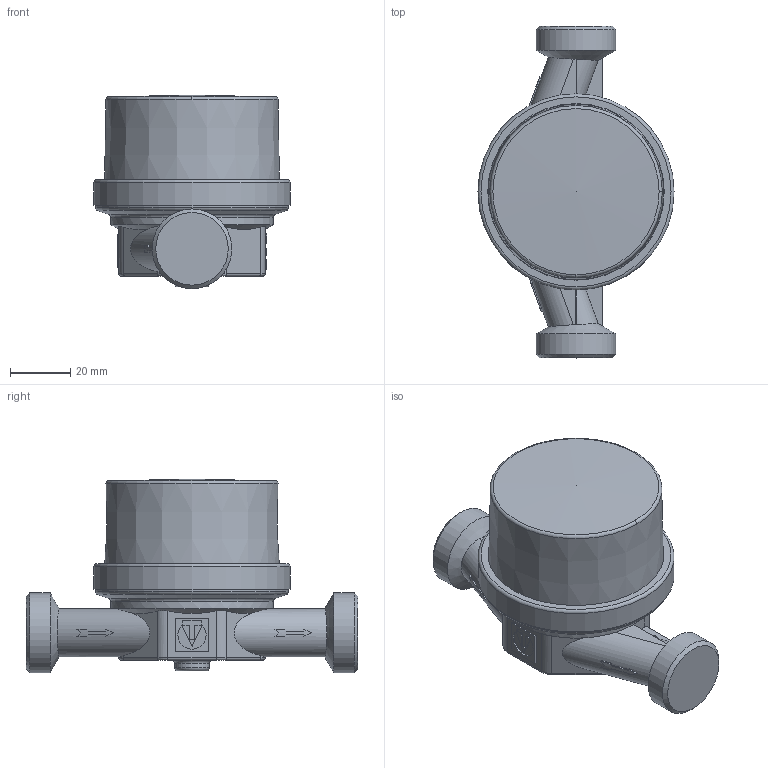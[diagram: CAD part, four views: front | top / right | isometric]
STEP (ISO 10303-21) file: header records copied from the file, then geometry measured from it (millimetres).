
FILE_DESCRIPTION(('STEP AP203'), '1');
FILE_NAME('覆.407262.001.000 捘 - VLF-15U', '2024-06-18T06:25:18', ('Boss'), (''), 'C3D Converter', 'C3D Toolkit', '');
FILE_SCHEMA(('CONFIG_CONTROL_DESIGN'));
Length unit declared in the file: millimetre
Products named in the file (1): ВР.407262.001.000 СБ
Bounding box: 65 x 110 x 64.12 mm (x, y, z)
Volume: 170221.9 mm3; surface area: 23665.7 mm2
Topology: 1 solids, 3 shells, 338 faces, 905 edges, 592 vertices
Faces by surface type: plane 160, extrusion 113, cylinder 40, torus 16, cone 8, sphere 1
Full cylindrical faces by diameter (mm): 3 x2, 11.5 x1, 26.441 x2, 54 x1, 58.5 x1, 63.8 x1, 65 x1
Entity records: 12154 total; most frequent: CARTESIAN_POINT 4355, ORIENTED_EDGE 1764, DIRECTION 1216, EDGE_CURVE 882, VECTOR 608, VERTEX_POINT 591, LINE 495, EDGE_LOOP 383
